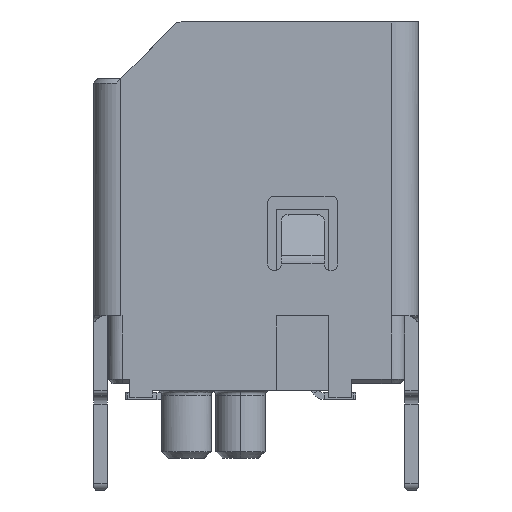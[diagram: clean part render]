
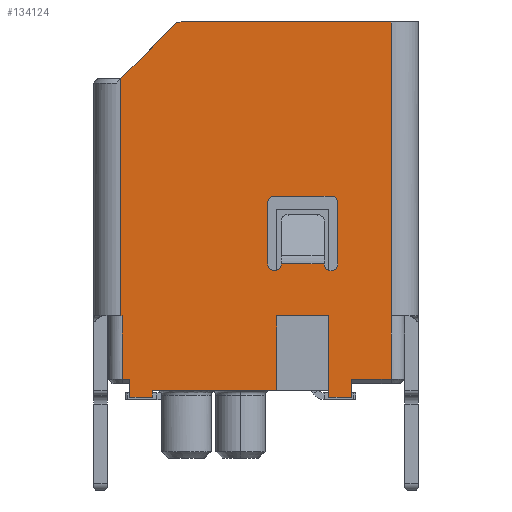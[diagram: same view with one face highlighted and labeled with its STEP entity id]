
A CAD part, left-side view. The second image highlights one B-rep face of the part: STEP entity #134124.
In plain terms, the highlighted planar face has unit normal (-1, 0, 0).
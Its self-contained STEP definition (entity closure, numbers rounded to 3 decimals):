
#20977=DIRECTION('',(0.,0.,-1.));
#20978=VECTOR('',#20977,1.8);
#20979=CARTESIAN_POINT('',(-13.5,-1.95,1.85));
#20980=LINE('',#20979,#20978);
#20993=DIRECTION('',(0.,-1.,0.));
#20994=VECTOR('',#20993,1.15);
#20995=CARTESIAN_POINT('',(-13.5,-0.8,1.85));
#20996=LINE('',#20995,#20994);
#27577=DIRECTION('',(0.,0.,-1.));
#27578=VECTOR('',#27577,1.4);
#27579=CARTESIAN_POINT('',(-13.5,2.62,1.85));
#27580=LINE('',#27579,#27578);
#27581=DIRECTION('',(0.,0.,1.));
#27582=VECTOR('',#27581,5.25);
#27583=CARTESIAN_POINT('',(-13.5,2.649,1.85));
#27584=LINE('',#27583,#27582);
#27585=DIRECTION('',(0.,-0.707,0.707));
#27586=VECTOR('',#27585,1.685);
#27587=CARTESIAN_POINT('',(-13.5,2.65,7.1));
#27588=LINE('',#27587,#27586);
#27589=CARTESIAN_POINT('',(-13.5,1.317,8.15));
#27590=DIRECTION('',(1.,0.,0.));
#27591=DIRECTION('',(0.,0.707,0.707));
#27592=AXIS2_PLACEMENT_3D('',#27589,#27590,#27591);
#27594=DIRECTION('',(0.,0.,1.));
#27595=VECTOR('',#27594,6.5);
#27596=CARTESIAN_POINT('',(-13.5,-3.33,1.85));
#27597=LINE('',#27596,#27595);
#27598=DIRECTION('',(0.,0.,1.));
#27599=VECTOR('',#27598,1.4);
#27600=CARTESIAN_POINT('',(-13.5,-3.33,
0.45));
#27601=LINE('',#27600,#27599);
#27602=DIRECTION('',(0.,1.,0.));
#27603=VECTOR('',#27602,0.88);
#27604=CARTESIAN_POINT('',(-13.5,-3.33,
0.45));
#27605=LINE('',#27604,#27603);
#27606=DIRECTION('',(0.,0.,1.));
#27607=VECTOR('',#27606,1.65);
#27608=CARTESIAN_POINT('',(-13.5,-0.8,0.2));
#27609=LINE('',#27608,#27607);
#27610=DIRECTION('',(0.,1.,0.));
#27611=VECTOR('',#27610,2.75);
#27612=CARTESIAN_POINT('',(-13.5,-0.8,0.2));
#27613=LINE('',#27612,#27611);
#27614=DIRECTION('',(0.,0.,-1.));
#27615=VECTOR('',#27614,0.15);
#27616=CARTESIAN_POINT('',(-13.5,1.95,0.2));
#27617=LINE('',#27616,#27615);
#27618=DIRECTION('',(0.,1.,0.));
#27619=VECTOR('',#27618,0.5);
#27620=CARTESIAN_POINT('',(-13.5,1.95,0.05));
#27621=LINE('',#27620,#27619);
#27622=DIRECTION('',(0.,0.,1.));
#27623=VECTOR('',#27622,0.4);
#27624=CARTESIAN_POINT('',(-13.5,2.45,0.05));
#27625=LINE('',#27624,#27623);
#27626=DIRECTION('',(0.,-1.,0.));
#27627=VECTOR('',#27626,0.17);
#27628=CARTESIAN_POINT('',(-13.5,2.62,
0.45));
#27629=LINE('',#27628,#27627);
#27630=DIRECTION('',(0.,0.,-1.));
#27631=VECTOR('',#27630,1.35);
#27632=CARTESIAN_POINT('',(-13.5,-2.15,4.35));
#27633=LINE('',#27632,#27631);
#27634=DIRECTION('',(0.,-1.,0.));
#27635=VECTOR('',#27634,1.25);
#27636=CARTESIAN_POINT('',(-13.5,-0.75,4.5));
#27637=LINE('',#27636,#27635);
#27638=DIRECTION('',(0.,0.,1.));
#27639=VECTOR('',#27638,1.35);
#27640=CARTESIAN_POINT('',(-13.5,-0.6,3.));
#27641=LINE('',#27640,#27639);
#27642=CARTESIAN_POINT('',(-13.5,-0.75,3.));
#27643=DIRECTION('',(1.,0.,0.));
#27644=DIRECTION('',(0.,-1.,0.));
#27645=AXIS2_PLACEMENT_3D('',#27642,#27643,#27644);
#27647=CARTESIAN_POINT('',(-13.5,-2.,3.));
#27648=DIRECTION('',(1.,0.,0.));
#27649=DIRECTION('',(0.,-1.,0.));
#27650=AXIS2_PLACEMENT_3D('',#27647,#27648,#27649);
#27652=CARTESIAN_POINT('',(-13.5,2.649,1.85));
#27653=CARTESIAN_POINT('',(-13.5,2.646,1.85));
#27654=CARTESIAN_POINT('',(-13.5,2.64,1.85));
#27655=CARTESIAN_POINT('',(-13.5,2.63,1.85));
#27656=CARTESIAN_POINT('',(-13.5,2.623,1.85));
#27657=CARTESIAN_POINT('',(-13.5,2.62,1.85));
#27898=DIRECTION('',(0.,-1.,0.));
#27899=VECTOR('',#27898,4.647);
#27900=CARTESIAN_POINT('',(-13.5,1.317,8.35));
#27901=LINE('',#27900,#27899);
#27924=CARTESIAN_POINT('',(-13.5,2.65,7.1));
#28646=DIRECTION('',(0.,-1.,0.));
#28647=VECTOR('',#28646,0.5);
#28648=CARTESIAN_POINT('',(-13.5,-1.95,0.05));
#28649=LINE('',#28648,#28647);
#28658=DIRECTION('',(0.,0.,1.));
#28659=VECTOR('',#28658,0.4);
#28660=CARTESIAN_POINT('',(-13.5,-2.45,0.05));
#28661=LINE('',#28660,#28659);
#28786=CARTESIAN_POINT('',(-13.5,-2.,4.35));
#28787=DIRECTION('',(1.,0.,0.));
#28788=DIRECTION('',(0.,0.,1.));
#28789=AXIS2_PLACEMENT_3D('',#28786,#28787,#28788);
#28804=CARTESIAN_POINT('',(-13.5,-0.75,4.35));
#28805=DIRECTION('',(1.,0.,0.));
#28806=DIRECTION('',(0.,1.,0.));
#28807=AXIS2_PLACEMENT_3D('',#28804,#28805,#28806);
#28858=DIRECTION('',(0.,-1.,0.));
#28859=VECTOR('',#28858,0.95);
#28860=CARTESIAN_POINT('',(-13.5,-0.9,3.));
#28861=LINE('',#28860,#28859);
#58854=CARTESIAN_POINT('',(-13.5,-3.33,
0.45));
#58855=CARTESIAN_POINT('',(-13.5,-2.45,0.45));
#58856=VERTEX_POINT('',#58854);
#58857=VERTEX_POINT('',#58855);
#58874=CARTESIAN_POINT('',(-13.5,2.62,
0.45));
#58875=CARTESIAN_POINT('',(-13.5,2.45,0.45));
#58876=VERTEX_POINT('',#58874);
#58877=VERTEX_POINT('',#58875);
#58936=CARTESIAN_POINT('',(-13.5,1.95,0.2));
#58937=VERTEX_POINT('',#58936);
#59276=CARTESIAN_POINT('',(-13.5,-0.8,0.2));
#59277=VERTEX_POINT('',#59276);
#59382=CARTESIAN_POINT('',(-13.5,-1.95,0.05));
#59383=CARTESIAN_POINT('',(-13.5,-2.45,0.05));
#59384=VERTEX_POINT('',#59382);
#59385=VERTEX_POINT('',#59383);
#59390=CARTESIAN_POINT('',(-13.5,1.95,0.05));
#59391=CARTESIAN_POINT('',(-13.5,2.45,0.05));
#59392=VERTEX_POINT('',#59390);
#59393=VERTEX_POINT('',#59391);
#60442=CARTESIAN_POINT('',(-13.5,-3.33,8.35));
#60444=VERTEX_POINT('',#60442);
#60616=VERTEX_POINT('',#27924);
#60755=CARTESIAN_POINT('',(-13.5,1.459,8.291));
#60757=VERTEX_POINT('',#60755);
#60759=CARTESIAN_POINT('',(-13.5,1.317,8.35));
#60760=VERTEX_POINT('',#60759);
#60769=CARTESIAN_POINT('',(-13.5,-0.9,3.));
#60770=CARTESIAN_POINT('',(-13.5,-0.6,3.));
#60771=VERTEX_POINT('',#60769);
#60772=VERTEX_POINT('',#60770);
#60773=CARTESIAN_POINT('',(-13.5,-2.15,3.));
#60774=CARTESIAN_POINT('',(-13.5,-1.85,3.));
#60775=VERTEX_POINT('',#60773);
#60776=VERTEX_POINT('',#60774);
#60961=CARTESIAN_POINT('',(-13.5,-0.6,4.35));
#60963=VERTEX_POINT('',#60961);
#60965=CARTESIAN_POINT('',(-13.5,-0.75,4.5));
#60967=VERTEX_POINT('',#60965);
#60969=CARTESIAN_POINT('',(-13.5,-2.,4.5));
#60971=VERTEX_POINT('',#60969);
#60973=CARTESIAN_POINT('',(-13.5,-2.15,4.35));
#60975=VERTEX_POINT('',#60973);
#61011=CARTESIAN_POINT('',(-13.5,-1.95,1.85));
#61013=VERTEX_POINT('',#61011);
#61067=VERTEX_POINT('',#27652);
#61068=VERTEX_POINT('',#27657);
#61069=CARTESIAN_POINT('',(-13.5,-3.33,1.85));
#61070=VERTEX_POINT('',#61069);
#61091=CARTESIAN_POINT('',(-13.5,-0.8,1.85));
#61092=VERTEX_POINT('',#61091);
#134065=CARTESIAN_POINT('',(-13.5,0.,0.));
#134066=DIRECTION('',(1.,0.,0.));
#134067=DIRECTION('',(0.,1.,0.));
#134068=AXIS2_PLACEMENT_3D('',#134065,#134066,#134067);
#134069=PLANE('',#134068);
#134071=ORIENTED_EDGE('',*,*,#134070,.F.);
#134073=ORIENTED_EDGE('',*,*,#134072,.F.);
#134075=ORIENTED_EDGE('',*,*,#134074,.T.);
#134077=ORIENTED_EDGE('',*,*,#134076,.T.);
#134079=ORIENTED_EDGE('',*,*,#134078,.T.);
#134081=ORIENTED_EDGE('',*,*,#134080,.T.);
#134082=ORIENTED_EDGE('',*,*,#134043,.F.);
#134083=ORIENTED_EDGE('',*,*,#74913,.F.);
#134085=ORIENTED_EDGE('',*,*,#134084,.T.);
#134087=ORIENTED_EDGE('',*,*,#134086,.F.);
#134089=ORIENTED_EDGE('',*,*,#134088,.F.);
#134090=ORIENTED_EDGE('',*,*,#119275,.F.);
#134091=ORIENTED_EDGE('',*,*,#119309,.F.);
#134093=ORIENTED_EDGE('',*,*,#134092,.F.);
#134095=ORIENTED_EDGE('',*,*,#134094,.T.);
#134097=ORIENTED_EDGE('',*,*,#134096,.T.);
#134099=ORIENTED_EDGE('',*,*,#134098,.T.);
#134101=ORIENTED_EDGE('',*,*,#134100,.T.);
#134103=ORIENTED_EDGE('',*,*,#134102,.F.);
#134104=EDGE_LOOP('',(#134071,#134073,#134075,#134077,#134079,#134081,#134082,
#134083,#134085,#134087,#134089,#134090,#134091,#134093,#134095,#134097,#134099,
#134101,#134103));
#134105=FACE_OUTER_BOUND('',#134104,.F.);
#134107=ORIENTED_EDGE('',*,*,#134106,.F.);
#134109=ORIENTED_EDGE('',*,*,#134108,.F.);
#134111=ORIENTED_EDGE('',*,*,#134110,.F.);
#134113=ORIENTED_EDGE('',*,*,#134112,.F.);
#134115=ORIENTED_EDGE('',*,*,#134114,.F.);
#134117=ORIENTED_EDGE('',*,*,#134116,.F.);
#134119=ORIENTED_EDGE('',*,*,#134118,.T.);
#134121=ORIENTED_EDGE('',*,*,#134120,.F.);
#134122=EDGE_LOOP('',(#134107,#134109,#134111,#134113,#134115,#134117,#134119,
#134121));
#134123=FACE_BOUND('',#134122,.F.);
#27593=CIRCLE('',#27592,0.2);
#27646=CIRCLE('',#27645,0.15);
#27651=CIRCLE('',#27650,0.15);
#27658=B_SPLINE_CURVE_WITH_KNOTS('',3,(#27652,#27653,#27654,#27655,#27656,
#27657),.UNSPECIFIED.,.F.,.F.,(4,1,1,4),(0.,0.333,
0.667,1.),.UNSPECIFIED.);
#28790=CIRCLE('',#28789,0.15);
#28808=CIRCLE('',#28807,0.15);
#74913=EDGE_CURVE('',#58856,#61070,#27601,.T.);
#119275=EDGE_CURVE('',#61013,#59384,#20980,.T.);
#119309=EDGE_CURVE('',#61092,#61013,#20996,.T.);
#134043=EDGE_CURVE('',#61070,#60444,#27597,.T.);
#134070=EDGE_CURVE('',#61068,#58876,#27580,.T.);
#134072=EDGE_CURVE('',#61067,#61068,#27658,.T.);
#134074=EDGE_CURVE('',#61067,#60616,#27584,.T.);
#134076=EDGE_CURVE('',#60616,#60757,#27588,.T.);
#134078=EDGE_CURVE('',#60757,#60760,#27593,.T.);
#134080=EDGE_CURVE('',#60760,#60444,#27901,.T.);
#134084=EDGE_CURVE('',#58856,#58857,#27605,.T.);
#134086=EDGE_CURVE('',#59385,#58857,#28661,.T.);
#134088=EDGE_CURVE('',#59384,#59385,#28649,.T.);
#134092=EDGE_CURVE('',#59277,#61092,#27609,.T.);
#134094=EDGE_CURVE('',#59277,#58937,#27613,.T.);
#134096=EDGE_CURVE('',#58937,#59392,#27617,.T.);
#134098=EDGE_CURVE('',#59392,#59393,#27621,.T.);
#134100=EDGE_CURVE('',#59393,#58877,#27625,.T.);
#134102=EDGE_CURVE('',#58876,#58877,#27629,.T.);
#134106=EDGE_CURVE('',#60975,#60775,#27633,.T.);
#134108=EDGE_CURVE('',#60971,#60975,#28790,.T.);
#134110=EDGE_CURVE('',#60967,#60971,#27637,.T.);
#134112=EDGE_CURVE('',#60963,#60967,#28808,.T.);
#134114=EDGE_CURVE('',#60772,#60963,#27641,.T.);
#134116=EDGE_CURVE('',#60771,#60772,#27646,.T.);
#134118=EDGE_CURVE('',#60771,#60776,#28861,.T.);
#134120=EDGE_CURVE('',#60775,#60776,#27651,.T.);
#134124=ADVANCED_FACE('',(#134105,#134123),#134069,.F.);
